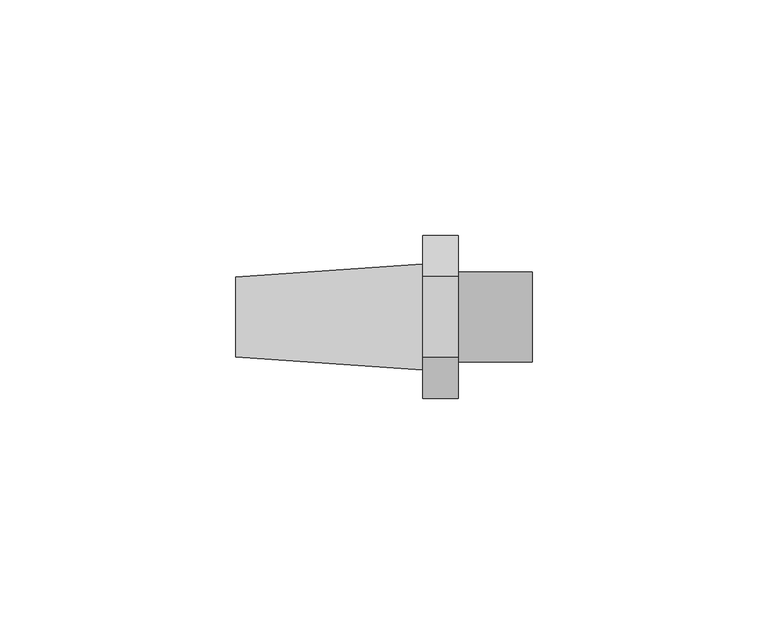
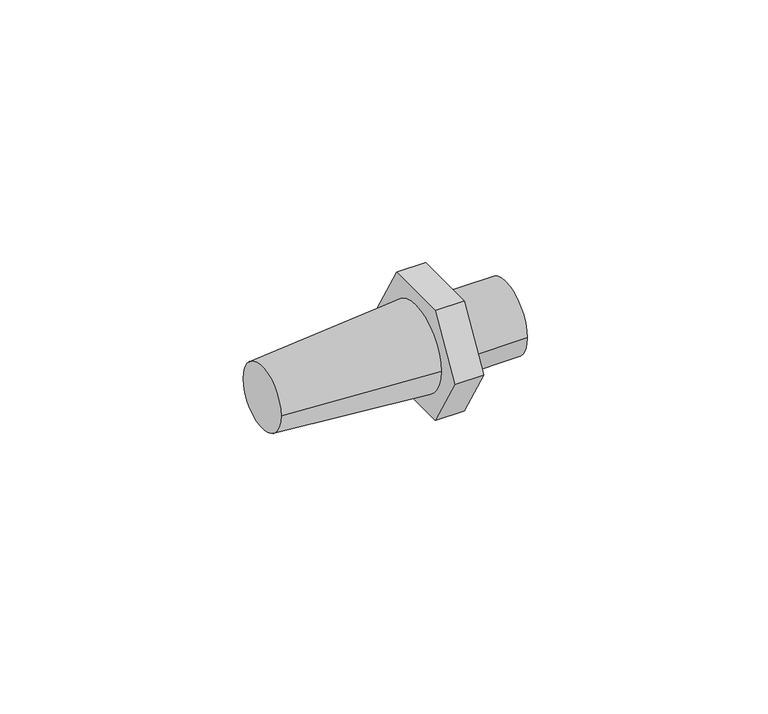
"""IFC4 building model written with IfcOpenShell, lengths in millimetres: pipe fitting geometry, 01011013 : Douilles coniques."""

from ifc_helpers import new_model, si_unit, frame, origin, place, context, project, spatial, polyline, circle_curve, source, transform, mapped, element, save
from ifc_brep_helpers import plane_surface, cylinder_surface, revolved_surface, advanced_brep


def pipe_fitting_cfd32013(model_context):
    return source(origin(), model_context, "Body", "AdvancedBrep", [
        advanced_brep(
        [(-31.5, 8.5, 0.0), (-31.5, -8.5, 0.0), (8.25, 11.25, 0.0), (8.25, -11.25, 0.0)],
        [
            (0, 1, circle_curve(frame((-31.5, 0.0, 0.0), z_axis=(-1.0, 0.0, 0.0), x_axis=(0.0, 1.0, 0.0)), 8.5)),
            (1, 0, circle_curve(frame((-31.5, 0.0, 0.0), z_axis=(-1.0, 0.0, 0.0), x_axis=(0.0, -1.0, 0.0)), 8.5)),
            (2, 3, circle_curve(frame((8.25, 0.0, 0.0), z_axis=(1.0, 0.0, 0.0), x_axis=(0.0, -1.0, 0.0)), 11.25)),
            (3, 2, circle_curve(frame((8.25, 0.0, 0.0), z_axis=(1.0, 0.0, 0.0), x_axis=(0.0, 1.0, 0.0)), 11.25)),
            (3, 1),
            (0, 2),
        ],
        [
            plane_surface(frame((-31.5, 0.0, 0.0), z_axis=(-1.0, 0.0, 0.0), x_axis=(0.0, 0.0, -1.0))),
            plane_surface(frame((8.25, 0.0, 0.0), z_axis=(1.0, 0.0, 0.0), x_axis=(0.0, 0.0, -1.0))),
            revolved_surface(polyline([(-31.5, 8.500000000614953, 0.0), (8.25, 11.25, 0.0)]), (-154.3636364, 0.0, 0.0), (1.0, 0.0, 0.0)),
            revolved_surface(polyline([(-31.5, -8.500000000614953, 0.0), (8.25, -11.25, 0.0)]), (-154.3636364, 0.0, 0.0), (1.0, 0.0, 0.0)),
        ],
        [
            (0, [[1, 2]]),
            (1, [[3, 4]]),
            (2, [[-4, 5, -1, 6]]),
            (3, [[-3, -6, -2, -5]]),
        ],
    ),
        advanced_brep(
        [(15.75, -8.660254, 15.0), (15.75, -17.3205081, 0.0), (15.75, -8.660254, -15.0), (15.75, 8.660254, -15.0), (15.75, 17.3205081, 0.0), (15.75, 8.660254, 15.0), (15.75, -9.525, 0.0), (15.75, 9.525, 0.0), (8.25, -8.660254, 15.0), (8.25, 8.660254, 15.0), (8.25, 17.3205081, 0.0), (8.25, 8.660254, -15.0), (8.25, -8.660254, -15.0), (8.25, -17.3205081, 0.0), (31.5, -9.525, 0.0), (31.5, 9.525, 0.0)],
        [
            (0, 1),
            (1, 2),
            (2, 3),
            (3, 4),
            (4, 5),
            (5, 0),
            (6, 7, circle_curve(frame((15.75, 0.0, 0.0), z_axis=(-1.0, 0.0, 0.0), x_axis=(0.0, 1.0, 0.0)), 9.525)),
            (7, 6, circle_curve(frame((15.75, 0.0, 0.0), z_axis=(-1.0, 0.0, 0.0), x_axis=(0.0, 1.0, 0.0)), 9.525)),
            (8, 9),
            (9, 10),
            (10, 11),
            (11, 12),
            (12, 13),
            (13, 8),
            (0, 8),
            (13, 1),
            (12, 2),
            (11, 3),
            (10, 4),
            (9, 5),
            (14, 15, circle_curve(frame((31.5, 0.0, 0.0), z_axis=(1.0, 0.0, 0.0), x_axis=(0.0, 1.0, 0.0)), 9.525)),
            (15, 14, circle_curve(frame((31.5, 0.0, 0.0), z_axis=(1.0, 0.0, 0.0), x_axis=(0.0, 1.0, 0.0)), 9.525)),
            (15, 7),
            (6, 14),
        ],
        [
            plane_surface(frame((15.75, -8.660254, 15.0), z_axis=(1.0, 0.0, 0.0), x_axis=(0.0, -0.500000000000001, -0.8660254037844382))),
            plane_surface(frame((8.25, -8.660254, 15.0), z_axis=(-1.0, 0.0, 0.0), x_axis=(0.0, 0.500000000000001, 0.8660254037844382))),
            plane_surface(frame((15.75, -8.660254, 15.0), z_axis=(0.0, -0.8660254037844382, 0.500000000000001), x_axis=(-1.0, 0.0, 0.0))),
            plane_surface(frame((15.75, -17.3205081, 0.0), z_axis=(0.0, -0.8660254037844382, -0.500000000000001), x_axis=(-1.0, 0.0, 0.0))),
            plane_surface(frame((15.75, -8.660254, -15.0), z_axis=(0.0, 0.0, -1.0), x_axis=(-1.0, 0.0, 0.0))),
            plane_surface(frame((15.75, 8.660254, -15.0), z_axis=(0.0, 0.8660254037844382, -0.500000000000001), x_axis=(-1.0, 0.0, 0.0))),
            plane_surface(frame((15.75, 17.3205081, 0.0), z_axis=(0.0, 0.866025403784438, 0.5000000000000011), x_axis=(-1.0, 0.0, 0.0))),
            plane_surface(frame((15.75, 8.660254, 15.0), z_axis=(0.0, 0.0, 1.0), x_axis=(-1.0, 0.0, 0.0))),
            plane_surface(frame((31.5, 0.0, 0.0), z_axis=(1.0, 0.0, 0.0), x_axis=(0.0, 0.0, 1.0))),
            cylinder_surface(frame((15.75, 0.0, 0.0), z_axis=(-1.0, 0.0, 0.0), x_axis=(0.0, 1.0, 0.0)), 9.525),
        ],
        [
            (0, [[1, 2, 3, 4, 5, 6], [7, 8]]),
            (1, [[9, 10, 11, 12, 13, 14]]),
            (2, [[-1, 15, -14, 16]]),
            (3, [[-2, -16, -13, 17]]),
            (4, [[-3, -17, -12, 18]]),
            (5, [[-4, -18, -11, 19]]),
            (6, [[-5, -19, -10, 20]]),
            (7, [[-6, -20, -9, -15]]),
            (8, [[21, 22]]),
            (9, [[-22, 23, -7, 24]]),
            (9, [[-21, -24, -8, -23]]),
        ],
    ),
    ])


if __name__ == "__main__":
    model = new_model("IFC4")
    model_context = context("Model", 3, world=origin())
    ifc_project = project(units=[si_unit("LENGTHUNIT", "METRE", prefix="MILLI")], contexts=[model_context])
    site = spatial("IfcSite", under=ifc_project)
    building = spatial("IfcBuilding", under=site)
    placement = place(None, origin())
    pipe_fitting_shape = pipe_fitting_cfd32013(model_context)
    element("IfcPipeFitting", 1, ObjectType="01011013 : Douilles coniques", at=placement, inside=building, context=model_context, shape_type="MappedRepresentation", body=[
        mapped(pipe_fitting_shape, transform((0.0, 0.0, 0.0), x_axis=(1.0, 0.0, 0.0), y_axis=(0.0, 1.0, 0.0), z_axis=(0.0, 0.0, 1.0))),
    ])
    save(model, "model.ifc")
